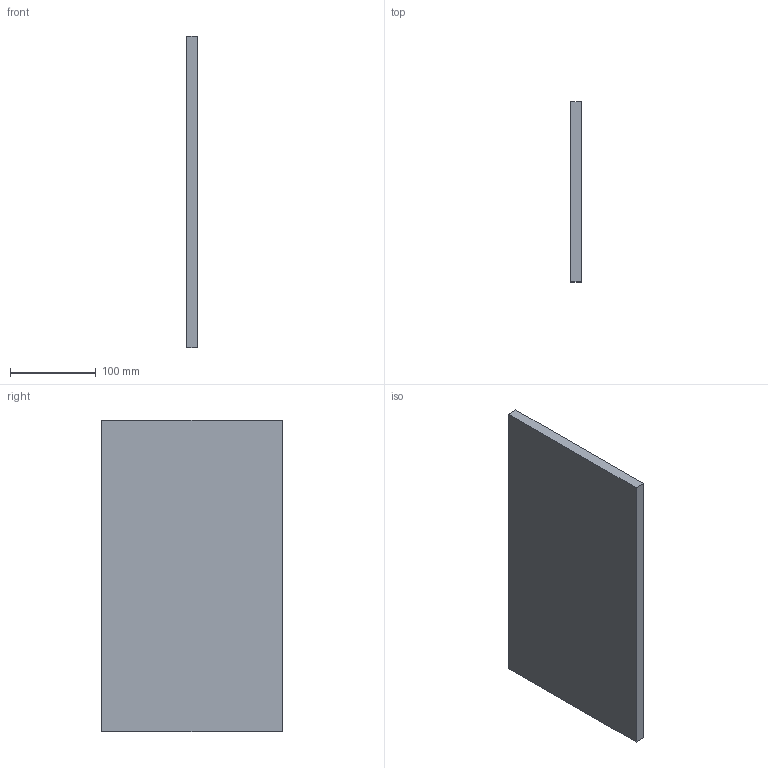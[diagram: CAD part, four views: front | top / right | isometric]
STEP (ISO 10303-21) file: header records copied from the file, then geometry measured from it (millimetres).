
FILE_DESCRIPTION(('Open CASCADE Model'),'2;1');
FILE_NAME('Open CASCADE Shape Model','2026-09-19T12:55:15',('Author'),( 'Open CASCADE'),'Open CASCADE STEP processor 7.9','Open CASCADE 7.9' ,'Unknown');
FILE_SCHEMA(('AUTOMOTIVE_DESIGN { 1 0 10303 214 1 1 1 1 }'));
Length unit declared in the file: millimetre
Products named in the file (1): Open CASCADE STEP translator 7.9 142
Bounding box: 12 x 210 x 363 mm (x, y, z)
Volume: 914760 mm3; surface area: 166212 mm2
Topology: 1 solids, 1 shells, 6 faces, 12 edges, 8 vertices
Faces by surface type: plane 6
Entity records: 322 total; most frequent: CARTESIAN_POINT 51, DIRECTION 50, LINE 36, VECTOR 36, ORIENTED_EDGE 24, PCURVE 24, DEFINITIONAL_REPRESENTATION 24, EDGE_CURVE 12
